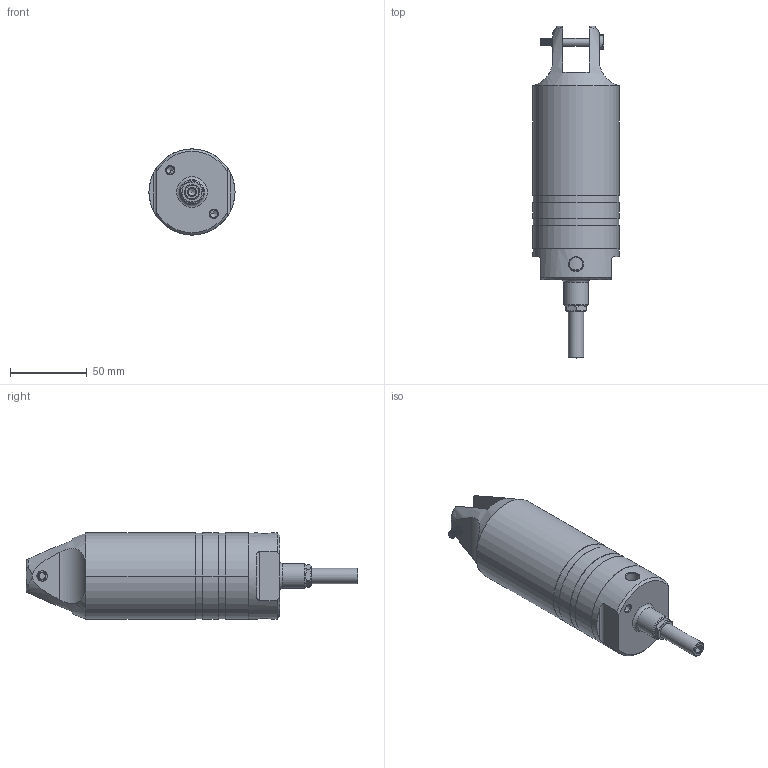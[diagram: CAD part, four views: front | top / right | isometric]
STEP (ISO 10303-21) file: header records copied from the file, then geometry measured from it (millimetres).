
FILE_DESCRIPTION(/* description */ (''),/* implementation_level */ '2;1');
FILE_NAME(/* name */ 'NR30-P-D1',/* time_stamp */ '2022-07-20T09:50:36+08:00',/* author */ (''),/* organization */ (''),/* preprocessor_version */ 'ST-DEVELOPER v9',/* originating_system */ 'UGS - NX 4.0',/* authorisation */ '');
FILE_SCHEMA (('AUTOMOTIVE_DESIGN { 1 0 10303 214 1 1 1 1 }'));
Length unit declared in the file: millimetre
Products named in the file (1): Admi735Aapx1
Bounding box: 56 x 216 x 56 mm (x, y, z)
Volume: 253888 mm3; surface area: 71925 mm2
Topology: 3 solids, 7 shells, 274 faces, 713 edges, 473 vertices
Faces by surface type: cylinder 126, plane 86, cone 43, bspline 10, torus 9
Full cylindrical faces by diameter (mm): 4.2 x1, 5 x3, 5.5 x1, 8 x1, 8.8 x2, 9 x1, 10 x1, 16 x1, 35.5 x1, 41 x1, 48 x1, 49 x10, 51 x1, 56 x1
Entity records: 18427 total; most frequent: CARTESIAN_POINT 10648, ORIENTED_EDGE 1290, DIRECTION 1139, EDGE_CURVE 645, AXIS2_PLACEMENT_3D 468, VERTEX_POINT 455, EDGE_LOOP 330, ADVANCED_FACE 264
